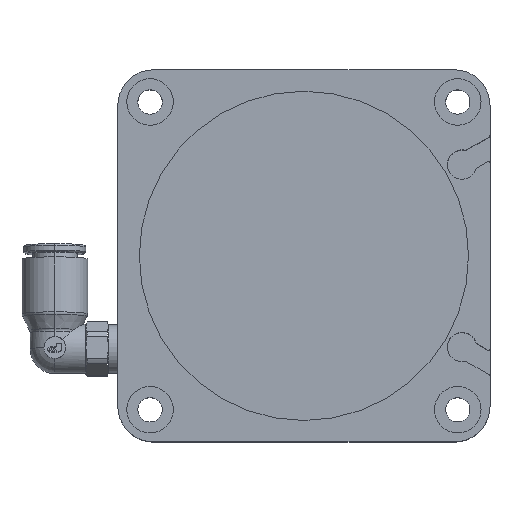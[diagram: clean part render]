
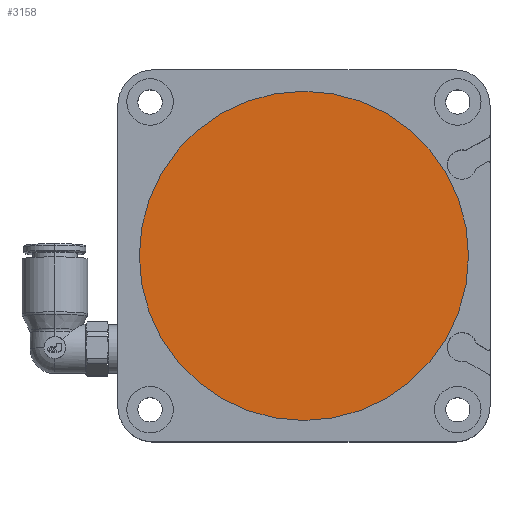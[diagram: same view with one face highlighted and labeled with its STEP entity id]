
A CAD part, top view. The second image highlights one B-rep face of the part: STEP entity #3158.
In plain terms, the highlighted planar face has unit normal (0, 0, 1).
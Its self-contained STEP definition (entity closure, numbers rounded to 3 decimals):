
#328 = DIRECTION ( 'NONE',  ( -1., 0., 0. ) ) ;
#796 = DIRECTION ( 'NONE',  ( 0., 0., 1. ) ) ;
#798 = EDGE_CURVE ( 'NONE', #7486, #2423, #3076, .T. ) ;
#1212 = CARTESIAN_POINT ( 'NONE',  ( 0., 0., 90.8 ) ) ;
#2261 = AXIS2_PLACEMENT_3D ( 'NONE', #1212, #4634, #2983 ) ;
#2354 = CARTESIAN_POINT ( 'NONE',  ( -23., 0., 90.8 ) ) ;
#2423 = VERTEX_POINT ( 'NONE', #2354 ) ;
#2685 = DIRECTION ( 'NONE',  ( -1., 0., 0. ) ) ;
#2771 = ORIENTED_EDGE ( 'NONE', *, *, #798, .T. ) ;
#2866 = ORIENTED_EDGE ( 'NONE', *, *, #5526, .T. ) ;
#2983 = DIRECTION ( 'NONE',  ( -1., 0., 0. ) ) ;
#3076 = CIRCLE ( 'NONE', #7488, 23. ) ;
#3158 = ADVANCED_FACE ( 'NONE', ( #5945 ), #4198, .T. ) ;
#3912 = DIRECTION ( 'NONE',  ( 0., 0., 1. ) ) ;
#4198 = PLANE ( 'NONE',  #2261 ) ;
#4413 = CARTESIAN_POINT ( 'NONE',  ( 0., 0., 90.8 ) ) ;
#4634 = DIRECTION ( 'NONE',  ( 0., 0., 1. ) ) ;
#4636 = EDGE_LOOP ( 'NONE', ( #2866, #2771 ) ) ;
#4924 = CARTESIAN_POINT ( 'NONE',  ( 23., 0., 90.8 ) ) ;
#5526 = EDGE_CURVE ( 'NONE', #2423, #7486, #6292, .T. ) ;
#5725 = CARTESIAN_POINT ( 'NONE',  ( 0., 0., 90.8 ) ) ;
#5790 = AXIS2_PLACEMENT_3D ( 'NONE', #5725, #3912, #328 ) ;
#5945 = FACE_OUTER_BOUND ( 'NONE', #4636, .T. ) ;
#6292 = CIRCLE ( 'NONE', #5790, 23. ) ;
#7486 = VERTEX_POINT ( 'NONE', #4924 ) ;
#7488 = AXIS2_PLACEMENT_3D ( 'NONE', #4413, #796, #2685 ) ;
